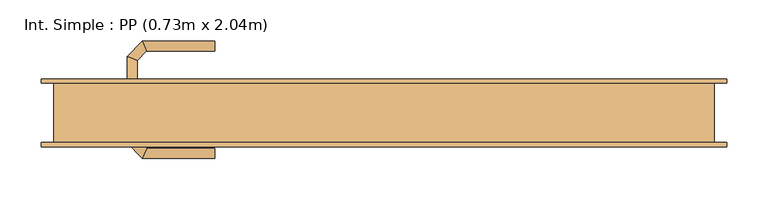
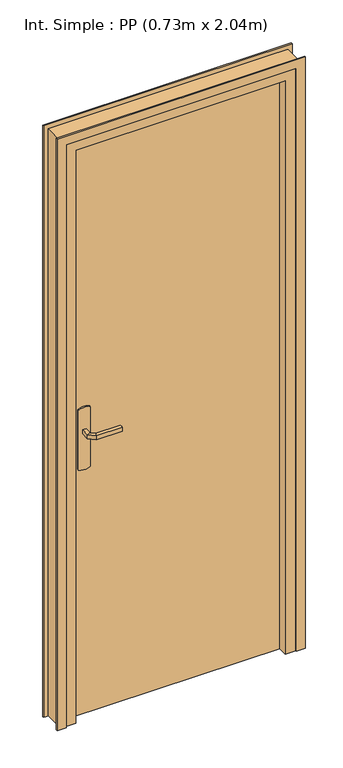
"""IFC4 building model written with IfcOpenShell, lengths in millimetres: door geometry, Int. Simple : PP (0.73m x 2.04m)."""

from ifc_helpers import new_model, si_unit, point, frame, frame_2d, origin, origin_with_axes, place, context, project, spatial, polyline, circle_curve, ellipse_curve, trimmed, segment, composite_curve, outline, extrude, faceted_brep, source, transform, mapped, element, save
from ifc_brep_helpers import plane_surface, cylinder_surface, advanced_brep


def int_simple_pp_0_73m_x_2_04m_31faaed5(model_context):
    return source(origin(), model_context, "Body", "SolidModel", [
        extrude(outline(composite_curve([segment(trimmed(circle_curve(frame_2d((904.6410162, -340.0)), 40.0), [point((870.0, -360.0))], [point((870.0, -320.0))], False, "CARTESIAN"), True, "CONTINUOUS"), segment(polyline([(870.0, -320.0), (1080.0, -320.0)]), True, "CONTINUOUS"), segment(trimmed(circle_curve(frame_2d((1045.3589838, -340.0)), 40.0), [point((1080.0, -320.0))], [point((1080.0, -360.0))], False, "CARTESIAN"), True, "CONTINUOUS"), segment(polyline([(1080.0, -360.0), (870.0, -360.0)]), True, "CONTINUOUS")], self_intersect=False)), frame((0.0, 36.0, 0.0), z_axis=(0.0, 1.0, 0.0), x_axis=(0.0, 0.0, 1.0)), (0.0, 0.0, 1.0), 5.0),
        extrude(outline(composite_curve([segment(trimmed(circle_curve(frame_2d((1045.3589838, -340.0)), 40.0), [point((1080.0, -320.0))], [point((1080.0, -360.0))], False, "CARTESIAN"), True, "CONTINUOUS"), segment(polyline([(1080.0, -360.0), (870.0, -360.0)]), True, "CONTINUOUS"), segment(trimmed(circle_curve(frame_2d((904.6410162, -340.0)), 40.0), [point((870.0, -360.0))], [point((870.0, -320.0))], False, "CARTESIAN"), True, "CONTINUOUS"), segment(polyline([(870.0, -320.0), (1080.0, -320.0)]), True, "CONTINUOUS")], self_intersect=False)), frame((0.0, -9.0, 0.0), z_axis=(0.0, 1.0, 0.0), x_axis=(0.0, 0.0, 1.0)), (0.0, 0.0, 1.0), 5.0),
        advanced_brep(
        [(-346.0, 41.0, 1007.0), (-346.0, 41.0, 993.0), (-334.0, 41.0, 993.0), (-334.0, 41.0, 1007.0), (-334.0, 63.680388, 1007.0), (-346.0, 68.6509507, 1007.0), (-334.0, 63.680388, 993.0), (-346.0, 68.6509507, 993.0), (-322.6522273, 75.0281607, 1007.0), (-327.62279, 87.0281607, 1007.0), (-322.6522273, 75.0281607, 993.0), (-327.62279, 87.0281607, 993.0), (-239.9813594, 87.0281607, 1007.0), (-239.9813594, 75.0281607, 1007.0), (-239.9813594, 75.0281607, 993.0), (-239.9813594, 87.0281607, 993.0)],
        [
            (0, 1),
            (1, 2, circle_curve(frame((-340.0, 41.0, 1013.0457722), z_axis=(0.0, -1.0, 0.0), x_axis=(1.0, 0.0, 0.0)), 20.9244589)),
            (2, 3),
            (3, 0, circle_curve(frame((-340.0, 41.0, 986.9542278), z_axis=(0.0, -1.0, 0.0), x_axis=(1.0, 0.0, 0.0)), 20.9244589)),
            (3, 4),
            (4, 5, ellipse_curve(frame((-340.0, 66.1656693, 986.9542278), z_axis=(-0.3826834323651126, -0.9238795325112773, 0.0), x_axis=(0.9238795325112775, -0.38268343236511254, 0.0)), 22.6484711, 20.9244589)),
            (5, 0),
            (2, 6),
            (6, 4),
            (1, 7),
            (7, 6, ellipse_curve(frame((-340.0, 66.1656693, 1013.0457722), z_axis=(-0.3826834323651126, -0.9238795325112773, 0.0), x_axis=(0.9238795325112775, -0.38268343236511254, 0.0)), 22.6484711, 20.9244589)),
            (5, 7),
            (4, 8),
            (8, 9, ellipse_curve(frame((-325.1375086, 81.0281607, 986.9542278), z_axis=(-0.9238795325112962, -0.38268343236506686, 0.0), x_axis=(0.3826834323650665, -0.9238795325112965, 0.0)), 22.6484711, 20.9244589)),
            (9, 5),
            (6, 10),
            (10, 8),
            (7, 11),
            (11, 10, ellipse_curve(frame((-325.1375086, 81.0281607, 1013.0457722), z_axis=(-0.9238795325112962, -0.38268343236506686, 0.0), x_axis=(0.3826834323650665, -0.9238795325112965, 0.0)), 22.6484711, 20.9244589)),
            (9, 11),
            (12, 13, circle_curve(frame((-239.9813594, 81.0281607, 986.9542278), z_axis=(1.0, 0.0, 0.0), x_axis=(0.0, -1.0, 0.0)), 20.9244589)),
            (13, 14),
            (14, 15, circle_curve(frame((-239.9813594, 81.0281607, 1013.0457722), z_axis=(1.0, 0.0, 0.0), x_axis=(0.0, -1.0, 0.0)), 20.9244589)),
            (15, 12),
            (8, 13),
            (12, 9),
            (10, 14),
            (11, 15),
        ],
        [
            plane_surface(frame((-349.2195445, 41.0, 1000.0), z_axis=(0.0, -1.0, 0.0), x_axis=(0.0, 0.0, -1.0))),
            cylinder_surface(frame((-340.0, 41.0, 986.9542278), z_axis=(0.0, -1.0, 0.0), x_axis=(1.0, 0.0, 0.0)), 20.9244589),
            plane_surface(frame((-334.0, 41.0, 1007.0), z_axis=(1.0, 0.0, 0.0), x_axis=(0.0, 1.0, 0.0))),
            cylinder_surface(frame((-340.0, 41.0, 1013.0457722), z_axis=(0.0, -1.0, 0.0), x_axis=(1.0, 0.0, 0.0)), 20.9244589),
            plane_surface(frame((-346.0, 41.0, 993.0), z_axis=(-1.0, 0.0, 0.0), x_axis=(0.0, 1.0, 0.0))),
            cylinder_surface(frame((-340.0, 66.1656693, 986.9542278), z_axis=(-0.7071067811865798, -0.7071067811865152, 0.0), x_axis=(0.7071067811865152, -0.7071067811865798, 0.0)), 20.9244589),
            plane_surface(frame((-334.0, 63.680388, 1007.0), z_axis=(0.7071067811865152, -0.7071067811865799, 0.0), x_axis=(0.7071067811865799, 0.7071067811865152, 0.0))),
            cylinder_surface(frame((-340.0, 66.1656693, 1013.0457722), z_axis=(-0.7071067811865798, -0.7071067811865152, 0.0), x_axis=(0.7071067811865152, -0.7071067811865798, 0.0)), 20.9244589),
            plane_surface(frame((-346.0, 68.6509507, 993.0), z_axis=(-0.7071067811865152, 0.7071067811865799, 0.0), x_axis=(0.7071067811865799, 0.7071067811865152, 0.0))),
            plane_surface(frame((-239.9813594, 81.0281607, 990.7804555), z_axis=(1.0, 0.0, 0.0), x_axis=(0.0, -1.0, 0.0))),
            cylinder_surface(frame((-325.1375086, 81.0281607, 986.9542278), z_axis=(-1.0, 0.0, 0.0), x_axis=(0.0, -1.0, 0.0)), 20.9244589),
            plane_surface(frame((-322.6522273, 75.0281607, 1007.0), z_axis=(0.0, -1.0, 0.0), x_axis=(1.0, 0.0, 0.0))),
            cylinder_surface(frame((-325.1375086, 81.0281607, 1013.0457722), z_axis=(-1.0, 0.0, 0.0), x_axis=(0.0, -1.0, 0.0)), 20.9244589),
            plane_surface(frame((-327.62279, 87.0281607, 993.0), z_axis=(0.0, 1.0, 0.0), x_axis=(1.0, 0.0, 0.0))),
        ],
        [
            (0, [[1, 2, 3, 4]]),
            (1, [[5, 6, 7, -4]]),
            (2, [[8, 9, -5, -3]]),
            (3, [[10, 11, -8, -2]]),
            (4, [[-7, 12, -10, -1]]),
            (5, [[13, 14, 15, -6]]),
            (6, [[16, 17, -13, -9]]),
            (7, [[18, 19, -16, -11]]),
            (8, [[-15, 20, -18, -12]]),
            (9, [[21, 22, 23, 24]]),
            (10, [[25, -21, 26, -14]]),
            (11, [[27, -22, -25, -17]]),
            (12, [[28, -23, -27, -19]]),
            (13, [[-26, -24, -28, -20]]),
        ],
    ),
        advanced_brep(
        [(-334.0, -9.0, 993.0), (-346.0, -9.0, 993.0), (-346.0, -9.0, 1007.0), (-334.0, -9.0, 1007.0), (-334.0, -31.4852045, 1007.0), (-334.0, -31.4852045, 993.0), (-346.0, -36.4557673, 1007.0), (-346.0, -36.4557673, 993.0), (-322.5147186, -42.9704859, 1007.0), (-322.5147186, -42.9704859, 993.0), (-327.4852814, -54.9704859, 1007.0), (-327.4852814, -54.9704859, 993.0), (-239.9542163, -42.9704859, 993.0), (-239.9542163, -42.9704859, 1007.0), (-239.9542163, -54.9704859, 1007.0), (-239.9542163, -54.9704859, 993.0)],
        [
            (0, 1, circle_curve(frame((-340.0, -9.0, 1013.0457722), z_axis=(0.0, 1.0, 0.0), x_axis=(-1.0, 0.0, 0.0)), 20.9244589)),
            (1, 2),
            (2, 3, circle_curve(frame((-340.0, -9.0, 986.9542278), z_axis=(0.0, 1.0, 0.0), x_axis=(-1.0, 0.0, 0.0)), 20.9244589)),
            (3, 0),
            (3, 4),
            (4, 5),
            (5, 0),
            (2, 6),
            (6, 4, ellipse_curve(frame((-340.0, -33.9704859, 986.9542278), z_axis=(-0.3826834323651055, 0.9238795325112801, 0.0), x_axis=(0.9238795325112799, 0.3826834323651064, 0.0)), 22.6484711, 20.9244589)),
            (1, 7),
            (7, 6),
            (5, 7, ellipse_curve(frame((-340.0, -33.9704859, 1013.0457722), z_axis=(-0.3826834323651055, 0.9238795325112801, 0.0), x_axis=(0.9238795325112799, 0.3826834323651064, 0.0)), 22.6484711, 20.9244589)),
            (4, 8),
            (8, 9),
            (9, 5),
            (6, 10),
            (10, 8, ellipse_curve(frame((-325.0, -48.9704859, 986.9542278), z_axis=(-0.9238795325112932, 0.382683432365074, 0.0), x_axis=(0.3826834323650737, 0.9238795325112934, 0.0)), 22.6484711, 20.9244589)),
            (7, 11),
            (11, 10),
            (9, 11, ellipse_curve(frame((-325.0, -48.9704859, 1013.0457722), z_axis=(-0.9238795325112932, 0.382683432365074, 0.0), x_axis=(0.3826834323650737, 0.9238795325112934, 0.0)), 22.6484711, 20.9244589)),
            (12, 13),
            (13, 14, circle_curve(frame((-239.9542163, -48.9704859, 986.9542278), z_axis=(1.0, 0.0, 0.0), x_axis=(0.0, -1.0, 0.0)), 20.9244589)),
            (14, 15),
            (15, 12, circle_curve(frame((-239.9542163, -48.9704859, 1013.0457722), z_axis=(1.0, 0.0, 0.0), x_axis=(0.0, -1.0, 0.0)), 20.9244589)),
            (8, 13),
            (12, 9),
            (10, 14),
            (11, 15),
        ],
        [
            plane_surface(frame((-349.2195445, -9.0, 1000.0), z_axis=(0.0, 1.0, 0.0), x_axis=(0.0, 0.0, 1.0))),
            plane_surface(frame((-334.0, -9.0, 993.0), z_axis=(1.0, 0.0, 0.0), x_axis=(0.0, -1.0, 0.0))),
            cylinder_surface(frame((-340.0, -9.0, 986.9542278), z_axis=(0.0, 1.0, 0.0), x_axis=(-1.0, 0.0, 0.0)), 20.9244589),
            plane_surface(frame((-346.0, -9.0, 1007.0), z_axis=(-1.0, 0.0, 0.0), x_axis=(0.0, -1.0, 0.0))),
            cylinder_surface(frame((-340.0, -9.0, 1013.0457722), z_axis=(0.0, 1.0, 0.0), x_axis=(-1.0, 0.0, 0.0)), 20.9244589),
            plane_surface(frame((-334.0, -31.4852045, 993.0), z_axis=(0.7071067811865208, 0.7071067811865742, 0.0), x_axis=(0.7071067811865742, -0.7071067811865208, 0.0))),
            cylinder_surface(frame((-340.0, -33.9704859, 986.9542278), z_axis=(-0.7071067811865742, 0.7071067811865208, 0.0), x_axis=(-0.7071067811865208, -0.7071067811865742, 0.0)), 20.9244589),
            plane_surface(frame((-346.0, -36.4557673, 1007.0), z_axis=(-0.7071067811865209, -0.7071067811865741, 0.0), x_axis=(0.7071067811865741, -0.7071067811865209, 0.0))),
            cylinder_surface(frame((-340.0, -33.9704859, 1013.0457722), z_axis=(-0.7071067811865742, 0.7071067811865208, 0.0), x_axis=(-0.7071067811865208, -0.7071067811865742, 0.0)), 20.9244589),
            plane_surface(frame((-239.9542163, -48.9704859, 990.7804555), z_axis=(1.0, 0.0, 0.0), x_axis=(0.0, -1.0, 0.0))),
            plane_surface(frame((-322.5147186, -42.9704859, 993.0), z_axis=(0.0, 1.0, 0.0), x_axis=(1.0, 0.0, 0.0))),
            cylinder_surface(frame((-325.0, -48.9704859, 986.9542278), z_axis=(-1.0, 0.0, 0.0), x_axis=(0.0, -1.0, 0.0)), 20.9244589),
            plane_surface(frame((-327.4852814, -54.9704859, 1007.0), z_axis=(0.0, -1.0, 0.0), x_axis=(1.0, 0.0, 0.0))),
            cylinder_surface(frame((-325.0, -48.9704859, 1013.0457722), z_axis=(-1.0, 0.0, 0.0), x_axis=(0.0, -1.0, 0.0)), 20.9244589),
        ],
        [
            (0, [[1, 2, 3, 4]]),
            (1, [[5, 6, 7, -4]]),
            (2, [[8, 9, -5, -3]]),
            (3, [[10, 11, -8, -2]]),
            (4, [[-7, 12, -10, -1]]),
            (5, [[13, 14, 15, -6]]),
            (6, [[16, 17, -13, -9]]),
            (7, [[18, 19, -16, -11]]),
            (8, [[-15, 20, -18, -12]]),
            (9, [[21, 22, 23, 24]]),
            (10, [[25, -21, 26, -14]]),
            (11, [[27, -22, -25, -17]]),
            (12, [[28, -23, -27, -19]]),
            (13, [[-26, -24, -28, -20]]),
        ],
    ),
        extrude(outline(polyline([(-400.0, -4.0), (-400.0, 36.0), (330.0, 36.0), (330.0, -4.0), (-400.0, -4.0)])), origin_with_axes(), (0.0, 0.0, 1.0), 2040.0),
        faceted_brep([(-435.0, 36.0, 0.0), (-400.0, 36.0, 0.0), (-400.0, -4.0, 0.0), (-385.0, -4.0, 0.0), (-385.0, -36.0, 0.0), (-435.0, -36.0, 0.0), (-435.0, -36.0, 2075.0), (-435.0, 36.0, 2075.0), (-385.0, -36.0, 2025.0), (315.0, -36.0, 2025.0), (315.0, -36.0, 0.0), (365.0, -36.0, 0.0), (365.0, -36.0, 2075.0), (-385.0, -4.0, 2025.0), (-400.0, -4.0, 2040.0), (330.0, -4.0, 2040.0), (330.0, -4.0, 0.0), (315.0, -4.0, 0.0), (315.0, -4.0, 2025.0), (-400.0, 36.0, 2040.0), (365.0, 36.0, 2075.0), (365.0, 36.0, 0.0), (330.0, 36.0, 0.0), (330.0, 36.0, 2040.0)], [[[0, 1, 2, 3, 4, 5]], [[5, 6, 7, 0]], [[4, 8, 9, 10, 11, 12, 6, 5]], [[3, 13, 8, 4]], [[2, 14, 15, 16, 17, 18, 13, 3]], [[1, 19, 14, 2]], [[0, 7, 20, 21, 22, 23, 19, 1]], [[12, 11, 21, 20]], [[21, 11, 10, 17, 16, 22]], [[18, 17, 10, 9]], [[23, 22, 16, 15]], [[6, 12, 20, 7]], [[13, 18, 9, 8]], [[19, 23, 15, 14]]]),
        extrude(outline(polyline([(0.0, -420.0), (2060.0, -420.0), (2060.0, 350.0), (0.0, 350.0), (0.0, 380.0), (2090.0, 380.0), (2090.0, -450.0), (0.0, -450.0), (0.0, -420.0)])), frame((0.0, 36.0, 0.0), z_axis=(0.0, 1.0, 0.0), x_axis=(0.0, 0.0, 1.0)), (0.0, 0.0, 1.0), 5.0),
        extrude(outline(polyline([(0.0, -420.0), (2060.0, -420.0), (2060.0, 350.0), (0.0, 350.0), (0.0, 380.0), (2090.0, 380.0), (2090.0, -450.0), (0.0, -450.0), (0.0, -420.0)])), frame((0.0, -41.0, 0.0), z_axis=(0.0, 1.0, 0.0), x_axis=(0.0, 0.0, 1.0)), (0.0, 0.0, 1.0), 5.0),
    ])


if __name__ == "__main__":
    model = new_model("IFC4")
    model_context = context("Model", 3, world=origin())
    ifc_project = project(units=[si_unit("LENGTHUNIT", "METRE", prefix="MILLI")], contexts=[model_context])
    site = spatial("IfcSite", under=ifc_project)
    building = spatial("IfcBuilding", under=site)
    placement = place(None, origin())
    int_simple_pp_0_73m_x_2_04m_shape = int_simple_pp_0_73m_x_2_04m_31faaed5(model_context)
    element("IfcDoor", 1, ObjectType="Int. Simple : PP (0.73m x 2.04m)", at=placement, inside=building, context=model_context, shape_type="MappedRepresentation", body=[
        mapped(int_simple_pp_0_73m_x_2_04m_shape, transform((0.0, 0.0, 0.0), x_axis=(1.0, 0.0, 0.0), y_axis=(0.0, 1.0, 0.0), z_axis=(0.0, 0.0, 1.0))),
    ])
    save(model, "model.ifc")
